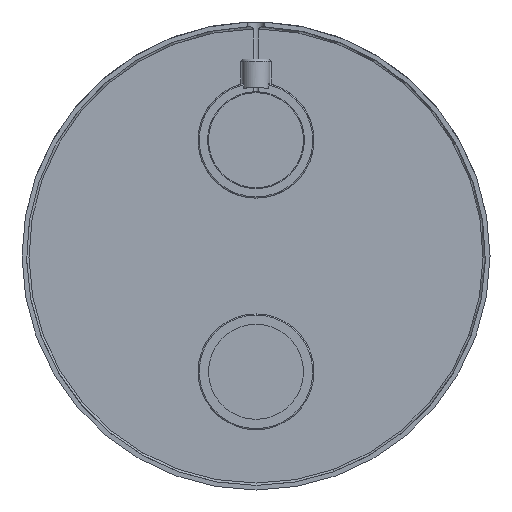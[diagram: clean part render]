
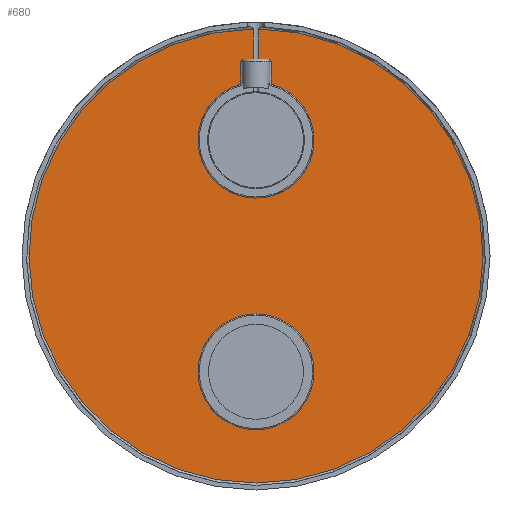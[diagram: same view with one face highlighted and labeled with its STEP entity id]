
A CAD part, front view. The second image highlights one B-rep face of the part: STEP entity #680.
In plain terms, the highlighted planar face has unit normal (0, -1, 0).
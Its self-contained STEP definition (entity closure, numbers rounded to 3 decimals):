
#1=DIRECTION('',(0.,0.,1.));
#2=VECTOR('',#1,12.993);
#3=CARTESIAN_POINT('',(-1.166,-2.,85.));
#4=LINE('',#3,#2);
#5=DIRECTION('',(0.,0.,-1.));
#6=VECTOR('',#5,9.86);
#7=CARTESIAN_POINT('',(-6.5,-2.,84.));
#8=LINE('',#7,#6);
#9=DIRECTION('',(0.,0.,1.));
#10=VECTOR('',#9,9.86);
#11=CARTESIAN_POINT('',(6.5,-2.,74.14));
#12=LINE('',#11,#10);
#13=DIRECTION('',(0.,0.,1.));
#14=VECTOR('',#13,12.993);
#15=CARTESIAN_POINT('',(1.166,-2.,85.));
#16=LINE('',#15,#14);
#159=CARTESIAN_POINT('',(6.5,-2.,74.14));
#167=CARTESIAN_POINT('',(0.,-2.,50.));
#168=DIRECTION('',(0.,1.,0.));
#169=DIRECTION('',(0.26,0.,0.966));
#170=AXIS2_PLACEMENT_3D('',#167,#168,#169);
#178=CARTESIAN_POINT('',(-6.5,-2.,74.14));
#237=DIRECTION('',(1.,0.,0.));
#238=VECTOR('',#237,3.92);
#239=CARTESIAN_POINT('',(-5.086,-2.,85.));
#240=LINE('',#239,#238);
#246=DIRECTION('',(1.,0.,0.));
#247=VECTOR('',#246,3.92);
#248=CARTESIAN_POINT('',(1.166,-2.,85.));
#249=LINE('',#248,#247);
#439=CARTESIAN_POINT('',(0.,-2.,0.));
#440=DIRECTION('',(0.,-1.,0.));
#441=DIRECTION('',(-0.012,0.,1.));
#442=AXIS2_PLACEMENT_3D('',#439,#440,#441);
#520=CARTESIAN_POINT('',(5.086,-2.,85.));
#521=CARTESIAN_POINT('',(5.215,-2.,85.));
#522=CARTESIAN_POINT('',(5.468,-2.,84.958));
#523=CARTESIAN_POINT('',(5.855,-2.,84.756));
#524=CARTESIAN_POINT('',(6.197,-2.,84.425));
#525=CARTESIAN_POINT('',(6.396,-2.,84.147));
#526=CARTESIAN_POINT('',(6.5,-2.,84.));
#538=CARTESIAN_POINT('',(-6.5,-2.,84.));
#539=CARTESIAN_POINT('',(-6.396,-2.,84.147));
#540=CARTESIAN_POINT('',(-6.197,-2.,84.426));
#541=CARTESIAN_POINT('',(-5.855,-2.,84.757));
#542=CARTESIAN_POINT('',(-5.468,-2.,84.958));
#543=CARTESIAN_POINT('',(-5.214,-2.,85.));
#544=CARTESIAN_POINT('',(-5.086,-2.,85.));
#576=CARTESIAN_POINT('',(1.166,-2.,85.));
#577=CARTESIAN_POINT('',(-1.166,-2.,85.));
#578=VERTEX_POINT('',#576);
#579=VERTEX_POINT('',#577);
#617=CARTESIAN_POINT('',(1.166,-2.,97.993));
#618=VERTEX_POINT('',#617);
#619=CARTESIAN_POINT('',(-1.166,-2.,97.993));
#620=VERTEX_POINT('',#619);
#635=VERTEX_POINT('',#159);
#638=VERTEX_POINT('',#178);
#639=CARTESIAN_POINT('',(-5.086,-2.,85.));
#640=VERTEX_POINT('',#639);
#641=CARTESIAN_POINT('',(-6.5,-2.,84.));
#642=VERTEX_POINT('',#641);
#643=CARTESIAN_POINT('',(6.5,-2.,84.));
#645=VERTEX_POINT('',#643);
#647=CARTESIAN_POINT('',(5.086,-2.,85.));
#649=VERTEX_POINT('',#647);
#653=CARTESIAN_POINT('',(0.,-2.,0.));
#654=DIRECTION('',(0.,-1.,0.));
#655=DIRECTION('',(-1.,0.,0.));
#656=AXIS2_PLACEMENT_3D('',#653,#654,#655);
#657=PLANE('',#656);
#659=ORIENTED_EDGE('',*,*,#658,.F.);
#661=ORIENTED_EDGE('',*,*,#660,.F.);
#663=ORIENTED_EDGE('',*,*,#662,.F.);
#665=ORIENTED_EDGE('',*,*,#664,.F.);
#667=ORIENTED_EDGE('',*,*,#666,.T.);
#669=ORIENTED_EDGE('',*,*,#668,.F.);
#671=ORIENTED_EDGE('',*,*,#670,.T.);
#673=ORIENTED_EDGE('',*,*,#672,.F.);
#675=ORIENTED_EDGE('',*,*,#674,.F.);
#677=ORIENTED_EDGE('',*,*,#676,.T.);
#678=EDGE_LOOP('',(#659,#661,#663,#665,#667,#669,#671,#673,#675,#677));
#679=FACE_OUTER_BOUND('',#678,.F.);
#680=ADVANCED_FACE('',(#679),#657,.T.);
#171=CIRCLE('',#170,25.);
#443=CIRCLE('',#442,98.);
#527=B_SPLINE_CURVE_WITH_KNOTS('',3,(#520,#521,#522,#523,#524,#525,#526),
.UNSPECIFIED.,.F.,.F.,(4,1,1,1,4),(0.,0.25,0.5,0.75,1.),
.UNSPECIFIED.);
#545=B_SPLINE_CURVE_WITH_KNOTS('',3,(#538,#539,#540,#541,#542,#543,#544),
.UNSPECIFIED.,.F.,.F.,(4,1,1,1,4),(0.,0.25,0.5,0.75,1.),
.UNSPECIFIED.);
#658=EDGE_CURVE('',#620,#618,#443,.T.);
#660=EDGE_CURVE('',#579,#620,#4,.T.);
#662=EDGE_CURVE('',#640,#579,#240,.T.);
#664=EDGE_CURVE('',#642,#640,#545,.T.);
#666=EDGE_CURVE('',#642,#638,#8,.T.);
#668=EDGE_CURVE('',#635,#638,#171,.T.);
#670=EDGE_CURVE('',#635,#645,#12,.T.);
#672=EDGE_CURVE('',#649,#645,#527,.T.);
#674=EDGE_CURVE('',#578,#649,#249,.T.);
#676=EDGE_CURVE('',#578,#618,#16,.T.);
